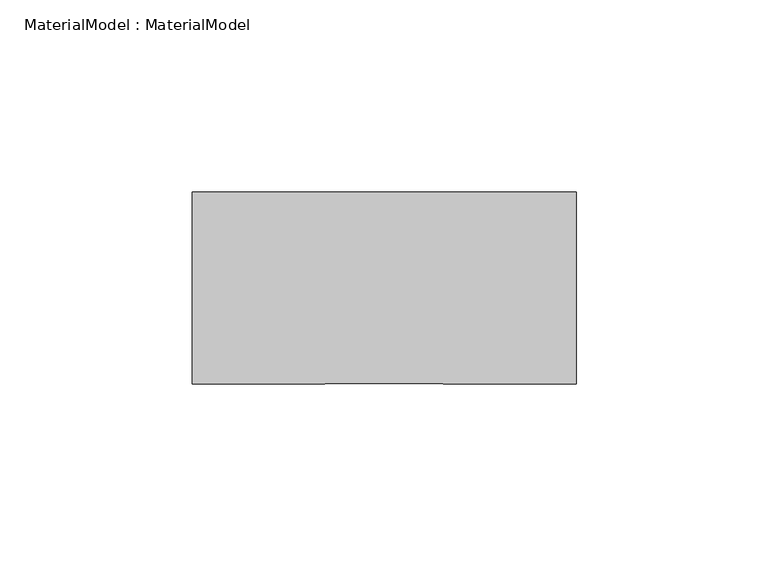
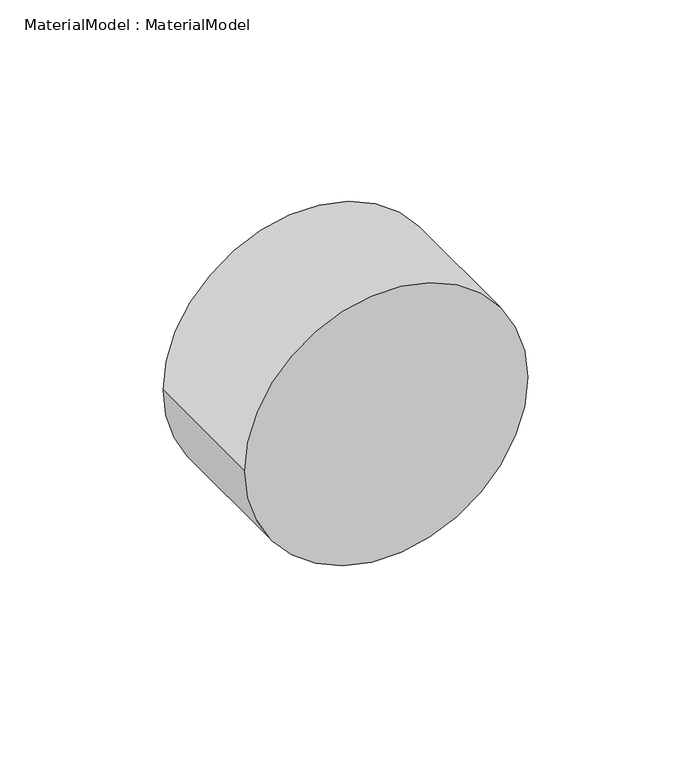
"""IFC4 building model written with IfcOpenShell, lengths in millimetres: proxy geometry, MaterialModel : MaterialModel."""

from ifc_helpers import new_model, si_unit, point, frame, frame_2d, origin, place, context, project, spatial, circle_curve, trimmed, segment, composite_curve, outline, extrude, source, transform, mapped, element, save


def materialmodel_materialmodel_139f3ecf(model_context):
    return source(origin(), model_context, "Body", "SweptSolid", [
        extrude(outline(composite_curve([segment(trimmed(circle_curve(frame_2d((75.0, 0.0)), 50.0), [point((75.0, -50.0))], [point((75.0, 50.0))], False, "CARTESIAN"), True, "CONTINUOUS"), segment(trimmed(circle_curve(frame_2d((75.0, 0.0)), 50.0), [point((75.0, 50.0))], [point((75.0, -50.0))], False, "CARTESIAN"), True, "CONTINUOUS")], self_intersect=False)), frame((0.0, -50.0, 0.0), z_axis=(0.0, 1.0, 0.0), x_axis=(0.0, 0.0, 1.0)), (0.0, 0.0, 1.0), 50.0),
    ])


if __name__ == "__main__":
    model = new_model("IFC4")
    model_context = context("Model", 3, world=origin())
    ifc_project = project(units=[si_unit("LENGTHUNIT", "METRE", prefix="MILLI")], contexts=[model_context])
    site = spatial("IfcSite", under=ifc_project)
    building = spatial("IfcBuilding", under=site)
    placement = place(None, origin())
    materialmodel_materialmodel_shape = materialmodel_materialmodel_139f3ecf(model_context)
    element("IfcBuildingElementProxy", 1, Name="MaterialModel : MaterialModel", ObjectType="MaterialModel : MaterialModel", at=placement, inside=building, context=model_context, shape_type="MappedRepresentation", body=[
        mapped(materialmodel_materialmodel_shape, transform((0.0, 0.0, 0.0), x_axis=(1.0, 0.0, 0.0), y_axis=(0.0, 1.0, 0.0), z_axis=(0.0, 0.0, 1.0))),
    ])
    save(model, "model.ifc")
